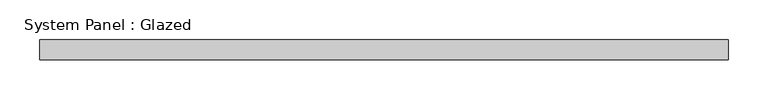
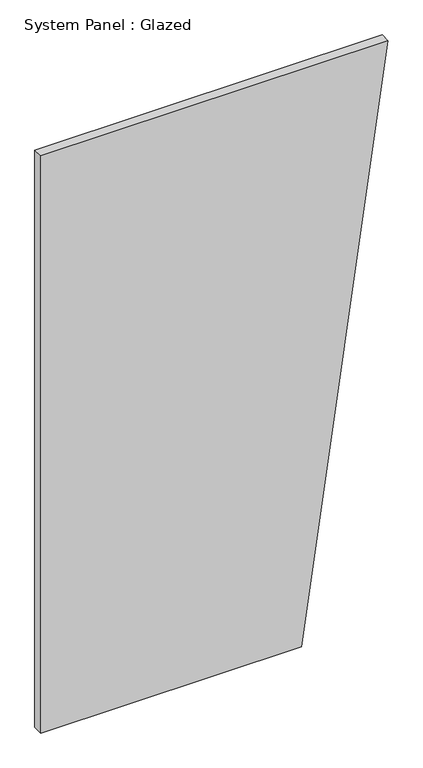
"""IFC4 building model written with IfcOpenShell, lengths in millimetres: plate geometry, System Panel : Glazed."""

from ifc_helpers import new_model, si_unit, frame, origin, place, context, project, spatial, polyline, outline, extrude, source, transform, mapped, element, save


def system_panel_glazed_878d3e49(model_context):
    return source(origin(), model_context, "Body", "SweptSolid", [
        extrude(outline(polyline([(0.0, -434.0907102), (0.0, 217.0453551), (1524.0, 434.0907102), (1524.0, -434.0907102), (0.0, -434.0907102)])), frame((0.0, 19.05, 0.0), z_axis=(0.0, 1.0, 0.0), x_axis=(0.0, 0.0, 1.0)), (0.0, 0.0, 1.0), 25.4),
    ])


if __name__ == "__main__":
    model = new_model("IFC4")
    model_context = context("Model", 3, world=origin())
    ifc_project = project(units=[si_unit("LENGTHUNIT", "METRE", prefix="MILLI")], contexts=[model_context])
    site = spatial("IfcSite", under=ifc_project)
    building = spatial("IfcBuilding", under=site)
    placement = place(None, origin())
    system_panel_glazed_shape = system_panel_glazed_878d3e49(model_context)
    element("IfcPlate", 1, ObjectType="System Panel : Glazed", at=placement, inside=building, context=model_context, shape_type="MappedRepresentation", body=[
        mapped(system_panel_glazed_shape, transform((0.0, 0.0, 0.0), x_axis=(1.0, 0.0, 0.0), y_axis=(0.0, 1.0, 0.0), z_axis=(0.0, 0.0, 1.0))),
    ])
    save(model, "model.ifc")
